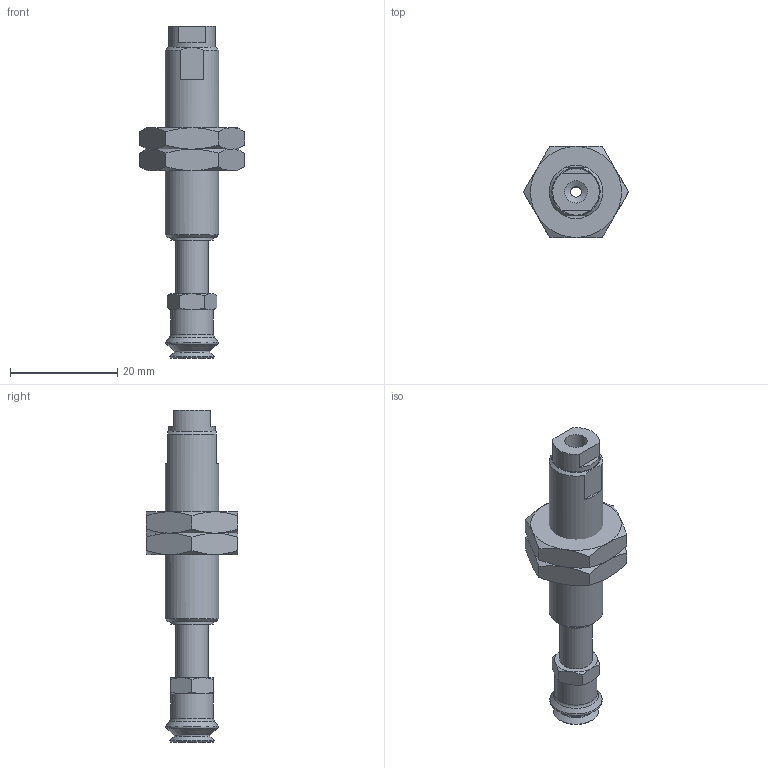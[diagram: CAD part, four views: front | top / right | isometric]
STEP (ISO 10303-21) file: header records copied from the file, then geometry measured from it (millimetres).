
FILE_DESCRIPTION(('STEP AP203'),'1');
FILE_NAME('-LB.stp','2025-04-24T07:22:19',(' '),(' '),'Spatial InterOp 3D',' ',' ');
FILE_SCHEMA(('CONFIG_CONTROL_DESIGN'));
Length unit declared in the file: millimetre
Products named in the file (7): BNABPJTH-8-10-※-LB; __; BODY; NUT; BPJG-8-_; PS-8-J-M- body
Assembly tree (6 placements, depth 2):
  BNABPJTH-8-10-※-LB
    __
    BODY
    NUT
    NUT
    BPJG-8-_
    PS-8-J-M- body
Bounding box: 19.63 x 17 x 62 mm (x, y, z)
Volume: 5011.4 mm3; surface area: 4306.6 mm2
Topology: 6 solids, 6 shells, 115 faces, 240 edges, 142 vertices
Faces by surface type: cone 48, plane 43, cylinder 16, torus 8
Full cylindrical faces by diameter (mm): 2 x2, 4 x2, 4.2 x2, 5 x1, 6 x3, 8 x2, 8.7 x1, 9 x2, 10 x1
Entity records: 3268 total; most frequent: CARTESIAN_POINT 714, DIRECTION 460, ORIENTED_EDGE 400, AXIS2_PLACEMENT_3D 214, EDGE_CURVE 200, EDGE_LOOP 166, FACE_OUTER_BOUND 139, VERTEX_POINT 136
